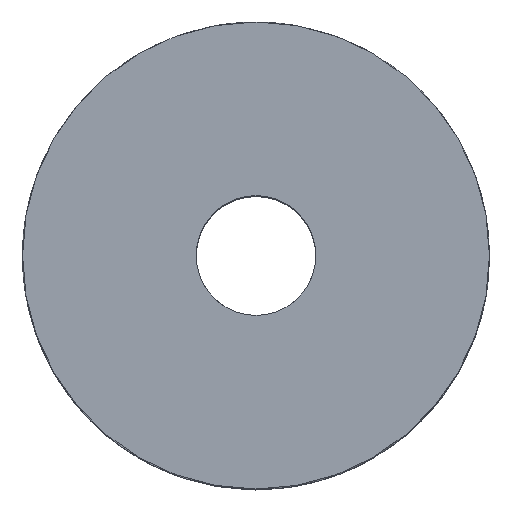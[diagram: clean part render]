
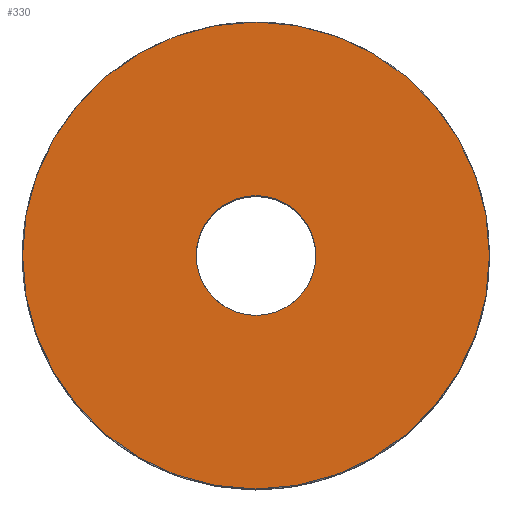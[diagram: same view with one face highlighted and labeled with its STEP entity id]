
A CAD part, top view. The second image highlights one B-rep face of the part: STEP entity #330.
In plain terms, the highlighted planar face has unit normal (0, 0, 1).
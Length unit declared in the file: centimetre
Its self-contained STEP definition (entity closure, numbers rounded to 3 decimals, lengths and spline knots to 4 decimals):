
#154=VERTEX_POINT('',#2266);
#158=VERTEX_POINT('',#2341);
#198=EDGE_CURVE('',#154,#154,#640,.T.);
#202=EDGE_CURVE('',#158,#158,#642,.T.);
#256=ORIENTED_EDGE('',*,*,#202,.F.);
#257=ORIENTED_EDGE('',*,*,#198,.F.);
#286=EDGE_LOOP('',(#256));
#287=EDGE_LOOP('',(#257));
#316=FACE_BOUND('',#286,.T.);
#317=FACE_BOUND('',#287,.T.);
#330=ADVANCED_FACE('',(#316,#317),#871,.T.);
#640=CIRCLE('',#810,0.975);
#642=CIRCLE('',#813,0.25);
#810=AXIS2_PLACEMENT_3D('',#2265,#1004,#1005);
#813=AXIS2_PLACEMENT_3D('',#2340,#1010,#1011);
#817=AXIS2_PLACEMENT_3D('',#2346,#1018,$);
#871=PLANE('',#817);
#1004=DIRECTION('',(0.,0.,-1.));
#1005=DIRECTION('',(0.975,0.,0.));
#1010=DIRECTION('',(0.,0.,1.));
#1011=DIRECTION('',(0.25,0.,0.));
#1018=DIRECTION('',(0.,0.,1.));
#2265=CARTESIAN_POINT('',(0.,0.,2.4));
#2266=CARTESIAN_POINT('',(0.975,0.,2.4));
#2340=CARTESIAN_POINT('',(0.,0.,2.4));
#2341=CARTESIAN_POINT('',(0.25,0.,2.4));
#2346=CARTESIAN_POINT('',(0.,0.,2.4));
